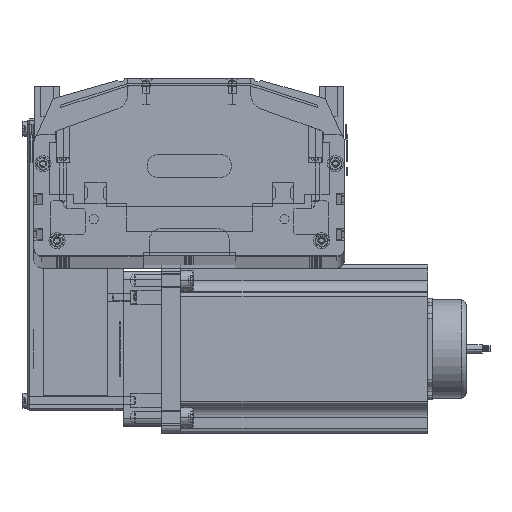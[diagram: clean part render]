
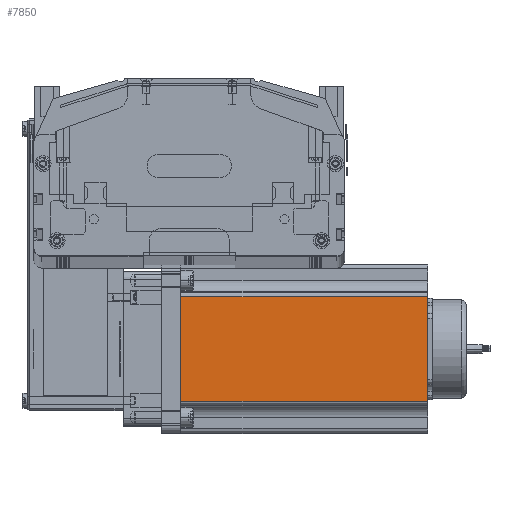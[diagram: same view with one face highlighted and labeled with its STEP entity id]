
A CAD part, top view. The second image highlights one B-rep face of the part: STEP entity #7850.
In plain terms, the highlighted planar face has unit normal (0, 0, 1) as drawn and (0, -1, 0) by its records, which use the part's own axes.
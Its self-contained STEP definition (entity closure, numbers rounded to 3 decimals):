
#7829 = VERTEX_POINT ( 'NONE', #58240 ) ;
#7838 = EDGE_LOOP ( 'NONE', ( #8067, #8178, #8349, #8096 ) ) ;
#7845 = EDGE_CURVE ( 'NONE', #7829, #8287, #58297, .T. ) ;
#7850 = ADVANCED_FACE ( 'NONE', ( #58765 ), #58743, .F. ) ;
#8067 = ORIENTED_EDGE ( 'NONE', *, *, #7845, .T. ) ;
#8084 = EDGE_CURVE ( 'NONE', #8123, #8097, #21266, .T. ) ;
#8096 = ORIENTED_EDGE ( 'NONE', *, *, #8350, .T. ) ;
#8097 = VERTEX_POINT ( 'NONE', #21247 ) ;
#8123 = VERTEX_POINT ( 'NONE', #16982 ) ;
#8124 = EDGE_CURVE ( 'NONE', #8287, #8097, #22327, .T. ) ;
#8178 = ORIENTED_EDGE ( 'NONE', *, *, #8124, .T. ) ;
#8287 = VERTEX_POINT ( 'NONE', #24574 ) ;
#8349 = ORIENTED_EDGE ( 'NONE', *, *, #8084, .F. ) ;
#8350 = EDGE_CURVE ( 'NONE', #8123, #7829, #57871, .T. ) ;
#16982 = CARTESIAN_POINT ( 'NONE',  ( 21.048, 0., 160.5 ) ) ;
#21247 = CARTESIAN_POINT ( 'NONE',  ( 88.952, 0., 160.5 ) ) ;
#21266 = LINE ( 'NONE', #21329, #21369 ) ;
#21328 = DIRECTION ( 'NONE',  ( 1., 0., 0. ) ) ;
#21329 = CARTESIAN_POINT ( 'NONE',  ( 0., 0., 160.5 ) ) ;
#21369 = VECTOR ( 'NONE', #21328, 1000. ) ;
#22147 = VECTOR ( 'NONE', #22371, 1000. ) ;
#22326 = CARTESIAN_POINT ( 'NONE',  ( 88.952, 0., 160.5 ) ) ;
#22327 = LINE ( 'NONE', #22326, #22147 ) ;
#22371 = DIRECTION ( 'NONE',  ( 0., 0., 1. ) ) ;
#24574 = CARTESIAN_POINT ( 'NONE',  ( 88.952, 0., 0. ) ) ;
#57866 = DIRECTION ( 'NONE',  ( 0., 0., -1. ) ) ;
#57868 = VECTOR ( 'NONE', #57866, 1000. ) ;
#57870 = CARTESIAN_POINT ( 'NONE',  ( 21.048, 0., 160.5 ) ) ;
#57871 = LINE ( 'NONE', #57870, #57868 ) ;
#58224 = DIRECTION ( 'NONE',  ( 1., 0., 0. ) ) ;
#58225 = VECTOR ( 'NONE', #58224, 1000. ) ;
#58240 = CARTESIAN_POINT ( 'NONE',  ( 21.048, 0., 0. ) ) ;
#58290 = CARTESIAN_POINT ( 'NONE',  ( 0., 0., 0. ) ) ;
#58297 = LINE ( 'NONE', #58290, #58225 ) ;
#58743 = PLANE ( 'NONE',  #58763 ) ;
#58758 = DIRECTION ( 'NONE',  ( 0., 1., 0. ) ) ;
#58763 = AXIS2_PLACEMENT_3D ( 'NONE', #58821, #58758, #59109 ) ;
#58765 = FACE_OUTER_BOUND ( 'NONE', #7838, .T. ) ;
#58821 = CARTESIAN_POINT ( 'NONE',  ( 0., 0., 160.5 ) ) ;
#59109 = DIRECTION ( 'NONE',  ( 0., 0., 1. ) ) ;
